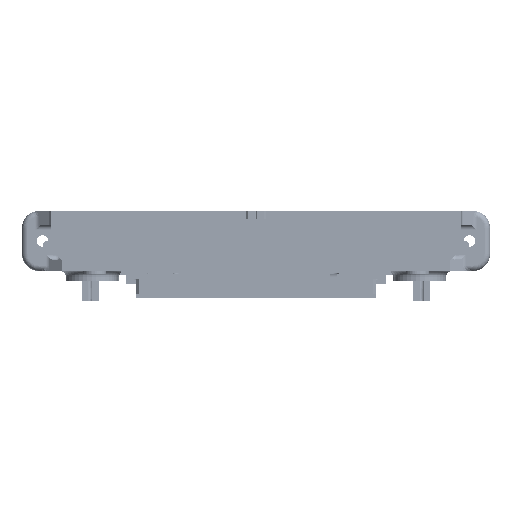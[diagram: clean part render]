
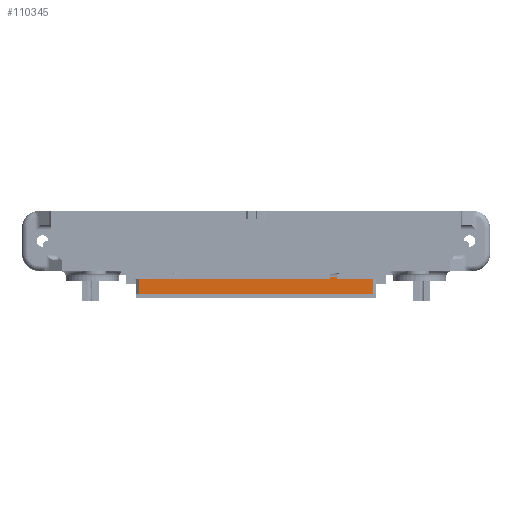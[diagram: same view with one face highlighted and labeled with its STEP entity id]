
A CAD part, left-side view. The second image highlights one B-rep face of the part: STEP entity #110345.
In plain terms, the highlighted planar face has unit normal (-1, 0, 0).
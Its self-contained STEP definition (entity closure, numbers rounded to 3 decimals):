
#54498=FACE_OUTER_BOUND('',#128193,.T.);
#61286=PLANE('',#244500);
#64401=LINE('',#299766,#84372);
#81271=LINE('',#343043,#101242);
#81272=LINE('',#343045,#101243);
#81273=LINE('',#343047,#101244);
#84372=VECTOR('',#251010,1.);
#101242=VECTOR('',#291222,1.);
#101243=VECTOR('',#291225,1.);
#101244=VECTOR('',#291226,1.);
#110345=ADVANCED_FACE('PARTBODY',(#54498),#61286,.T.);
#128193=EDGE_LOOP('',(#174017,#174018,#174019,#174020));
#174017=ORIENTED_EDGE('',*,*,#213677,.F.);
#174018=ORIENTED_EDGE('',*,*,#194042,.F.);
#174019=ORIENTED_EDGE('',*,*,#213676,.T.);
#174020=ORIENTED_EDGE('',*,*,#213678,.F.);
#177333=VERTEX_POINT('',#299761);
#177334=VERTEX_POINT('',#299765);
#190734=VERTEX_POINT('',#343042);
#190735=VERTEX_POINT('',#343046);
#194042=EDGE_CURVE('LINE',#177334,#177333,#64401,.T.);
#213676=EDGE_CURVE('LINE',#177334,#190734,#81271,.T.);
#213677=EDGE_CURVE('LINE',#177333,#190735,#81272,.T.);
#213678=EDGE_CURVE('LINE',#190735,#190734,#81273,.T.);
#244500=AXIS2_PLACEMENT_3D('',#343048,#291227,#291228);
#251010=DIRECTION('',(0.,-1.,0.));
#291222=DIRECTION('',(0.,0.,-1.));
#291225=DIRECTION('',(0.,0.,-1.));
#291226=DIRECTION('',(0.,1.,0.));
#291227=DIRECTION('',(-1.,0.,0.));
#291228=DIRECTION('',(0.,-1.,0.));
#299761=CARTESIAN_POINT('',(-355.,-428.,400.));
#299765=CARTESIAN_POINT('',(-355.,428.,400.));
#299766=CARTESIAN_POINT('',(-355.,0.,400.));
#343042=CARTESIAN_POINT('',(-355.,428.,337.));
#343043=CARTESIAN_POINT('',(-355.,428.,370.));
#343045=CARTESIAN_POINT('',(-355.,-428.,368.5));
#343046=CARTESIAN_POINT('',(-355.,-428.,337.));
#343047=CARTESIAN_POINT('',(-355.,0.,337.));
#343048=CARTESIAN_POINT('',(-355.,-438.,420.));
